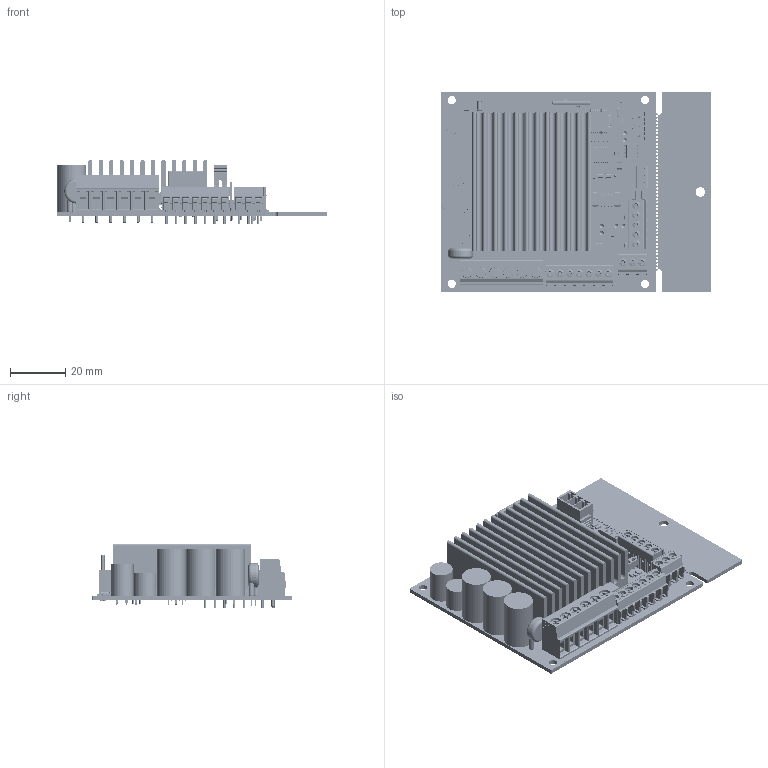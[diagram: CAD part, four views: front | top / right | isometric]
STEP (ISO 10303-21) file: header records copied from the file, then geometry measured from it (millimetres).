
FILE_DESCRIPTION(('STEP AP214'),'1');
FILE_NAME('EM-339A v2_BoardAndModels.step','2019-10-25T11:32:59',(' '),(' '),'Spatial InterOp 3D','XD3DPlugin XRACreate',' ');
FILE_SCHEMA(('automotive_design'));
Length unit declared in the file: millimetre
Products named in the file (151): Submodel-C:\Users\Tino Hellberg\works\3D kokeiluja\EM-339A v2_PCB\3D\Input_S\SOD80.xtd; SOD80; Submodel-BZV55-C24_ZENER-24V-0.5W_part_simplified_SOD80; DesignRootModel; Submodel-C:\Users\Tino Hellberg\works\3D kokeiluja\EM-339A v2_PCB\3D\Input_S\LED RED 0603.xtd; LED RED 0603; Submodel-WL-SMCW_0603_LED-RED_part_simplified_0603_LED; Submodel-C:\Users\Tino Hellberg\works\3D kokeiluja\EM-339A v2_PCB\3D\Input_S\MO-187CA.xtd; MO-187CA; Submodel-NC7WZ86_MO187_DUAL_2-INPUT_XOR_part_simplified_MO-187; Submodel-C:\Users\Tino Hellberg\works\3D kokeiluja\EM-339A v2_PCB\3D\Input_S\cay16.xtd; cay16; Submodel-RES1206_4X1K_SEP_part_simplified_CAY16; Submodel-C:\Users\Tino Hellberg\works\3D kokeiluja\EM-339A v2_PCB\3D\Input_S\SC70-6.xtd; SC70-6; Submodel-NC7WZ14_SC70_DUAL_INV_SCHMITT_TR_part_simplified_SC70; Submodel-C:\Users\Tino Hellberg\works\3D kokeiluja\EM-339A v2_PCB\3D\Input_S\DO-214AC SMA.xtd; DO-214AC SMA; Submodel-US1J_1A600V_SMA_part_simplified_SMA; Submodel-C:\Users\Tino Hellberg\works\3D kokeiluja\EM-339A v2_PCB\3D\Input_S\c-7-215079-6-t-3d.xtd; c-7-215079-6-t-3d; Submodel-7-215079-6_V_CON_MICROMATCH6_part_simplified_DIL6-V-2.54-MMATCH; Submodel-C:\Users\Tino Hellberg\works\3D kokeiluja\EM-339A v2_PCB\3D\Input_S\CSTCE 8MHz resonator.xtd; CSTCE 8MHz resonator; Submodel-CSTCE8M_8MHZ_SMD-RESONATOR_part_simplified_MXC8_TDK_CR; Submodel-C:\Users\Tino Hellberg\works\3D kokeiluja\EM-339A v2_PCB\3D\Input_S\DO219AB.xtd; DO219AB; Submodel-RS07J-GS08_1A600V_DO219AB-2_part_simplified_DO-219AB-SMF; Submodel-C:\Users\Tino Hellberg\works\3D kokeiluja\EM-339A v2_PCB\3D\Input_S\SOT-323.xtd; SOT-323; Submodel-BAS70-04W_0.07A70V-DUAL-SCHOTT_part_simplified_SOT323; Submodel-C:\Users\Tino Hellberg\works\3D kokeiluja\EM-339A v2_PCB\3D\Input_S\varistor 30VAC.xtd; varistor 30VAC; Submodel-VDR_RAD_30VAC38VDC2J_part_simplified_VDR-RAD-7.6_slash_2.6_slash_5.1; Submodel-C:\Users\Tino Hellberg\works\3D kokeiluja\EM-339A v2_PCB\3D\Input_S\CAP 0603.xtd; CAP 0603; Submodel-CAP0603_10NF_part_simplified_0603; Submodel-CAP0603_1NF_part_simplified_0603; Submodel-CAP0603_220PF_part_simplified_0603; Submodel-CAP0603_100PF_part_simplified_0603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
Assembly tree (288 placements, depth 5):
  EM-339A v2_BoardAndModels
    DesignRootModel
      Submodel-BZV55-C24_ZENER-24V-0.5W_part_simplified_SOD80
        Submodel-C:\Users\Tino Hellberg\works\3D kokeiluja\EM-339A v2_PCB\3D\Input_S\SOD80.xtd
          SOD80
      Submodel-WL-SMCW_0603_LED-RED_part_simplified_0603_LED
        Submodel-C:\Users\Tino Hellberg\works\3D kokeiluja\EM-339A v2_PCB\3D\Input_S\LED RED 0603.xtd
          LED RED 0603
      Submodel-NC7WZ86_MO187_DUAL_2-INPUT_XOR_part_simplified_MO-187
        Submodel-C:\Users\Tino Hellberg\works\3D kokeiluja\EM-339A v2_PCB\3D\Input_S\MO-187CA.xtd
          MO-187CA
      Submodel-RES1206_4X1K_SEP_part_simplified_CAY16
        Submodel-C:\Users\Tino Hellberg\works\3D kokeiluja\EM-339A v2_PCB\3D\Input_S\cay16.xtd
          cay16
      Submodel-NC7WZ14_SC70_DUAL_INV_SCHMITT_TR_part_simplified_SC70
        Submodel-C:\Users\Tino Hellberg\works\3D kokeiluja\EM-339A v2_PCB\3D\Input_S\SC70-6.xtd
          SC70-6
      Submodel-US1J_1A600V_SMA_part_simplified_SMA  x2
        Submodel-C:\Users\Tino Hellberg\works\3D kokeiluja\EM-339A v2_PCB\3D\Input_S\DO-214AC SMA.xtd
          DO-214AC SMA
      Submodel-7-215079-6_V_CON_MICROMATCH6_part_simplified_DIL6-V-2.54-MMATCH
        Submodel-C:\Users\Tino Hellberg\works\3D kokeiluja\EM-339A v2_PCB\3D\Input_S\c-7-215079-6-t-3d.xtd
          c-7-215079-6-t-3d
      Submodel-CSTCE8M_8MHZ_SMD-RESONATOR_part_simplified_MXC8_TDK_CR
        Submodel-C:\Users\Tino Hellberg\works\3D kokeiluja\EM-339A v2_PCB\3D\Input_S\CSTCE 8MHz resonator.xtd
          CSTCE 8MHz resonator
      Submodel-RS07J-GS08_1A600V_DO219AB-2_part_simplified_DO-219AB-SMF
        Submodel-C:\Users\Tino Hellberg\works\3D kokeiluja\EM-339A v2_PCB\3D\Input_S\DO219AB.xtd
          DO219AB
      Submodel-BAS70-04W_0.07A70V-DUAL-SCHOTT_part_simplified_SOT323  x5
        Submodel-C:\Users\Tino Hellberg\works\3D kokeiluja\EM-339A v2_PCB\3D\Input_S\SOT-323.xtd
          SOT-323
      Submodel-VDR_RAD_30VAC38VDC2J_part_simplified_VDR-RAD-7.6_slash_2.6_slash_5.1
        Submodel-C:\Users\Tino Hellberg\works\3D kokeiluja\EM-339A v2_PCB\3D\Input_S\varistor 30VAC.xtd
          varistor 30VAC
      Submodel-CAP0603_10NF_part_simplified_0603  x2
        Submodel-C:\Users\Tino Hellberg\works\3D kokeiluja\EM-339A v2_PCB\3D\Input_S\CAP 0603.xtd
          CAP 0603
      Submodel-CAP0603_1NF_part_simplified_0603  x3
        Submodel-C:\Users\Tino Hellberg\works\3D kokeiluja\EM-339A v2_PCB\3D\Input_S\CAP 0603.xtd
          CAP 0603
      Submodel-CAP0603_220PF_part_simplified_0603
        Submodel-C:\Users\Tino Hellberg\works\3D kokeiluja\EM-339A v2_PCB\3D\Input_S\CAP 0603.xtd
          CAP 0603
      Submodel-CAP0603_100PF_part_simplified_0603  x2
        Submodel-C:\Users\Tino Hellberg\works\3D kokeiluja\EM-339A v2_PCB\3D\Input_S\CAP 0603.xtd
          CAP 0603
      Submodel-CAP0603_100NF_part_simplified_0603  x10
        Submodel-C:\Users\Tino Hellberg\works\3D kokeiluja\EM-339A v2_PCB\3D\Input_S\CAP 0603.xtd
          CAP 0603
      Submodel-CAP0603_2N2_part_simplified_0603  x12
        Submodel-C:\Users\Tino Hellberg\works\3D kokeiluja\EM-339A v2_PCB\3D\Input_S\CAP 0603.xtd
          CAP 0603
      Submodel-RES0805_0R_part_simplified_0805  x2
        Submodel-C:\Users\Tino Hellberg\works\3D kokeiluja\EM-339A v2_PCB\3D\Input_S\RES 0805.xtd
          RES 0805
      Submodel-BAV99_0.2A100V-DUAL-SOT-23_part_simplified_SOT23  x4
        Submodel-C:\Users\Tino Hellberg\works\3D kokeiluja\EM-339A v2_PCB\3D\Input_S\SOT-23.xtd
          SOT-23
      Submodel-PSMN025-80YL_SOT669_NMOS-80V-0.025R_part_simplified_SOT669
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Bounding box: 98 x 72.5 x 23.46 mm (x, y, z)
Volume: 66812.5 mm3; surface area: 75136.3 mm2
Topology: 398 solids, 398 shells, 17059 faces, 44485 edges, 27748 vertices
Faces by surface type: plane 11124, cylinder 4122, sphere 845, torus 562, bspline 232, cone 174
Full cylindrical faces by diameter (mm): 0.6 x2, 0.8 x45, 2 x4, 2.8 x16, 3 x4, 3.2 x3, 3.5 x1, 8.2 x2, 9 x2, 10.5 x3
Entity records: 263958 total; most frequent: CARTESIAN_POINT 47847, ORIENTED_EDGE 33638, DIRECTION 33309, EDGE_CURVE 16819, LINE 12281, VECTOR 12281, VERTEX_POINT 10915, AXIS2_PLACEMENT_3D 10514
